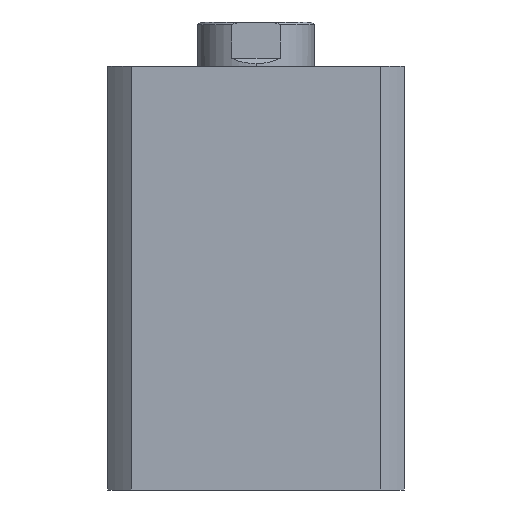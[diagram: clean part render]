
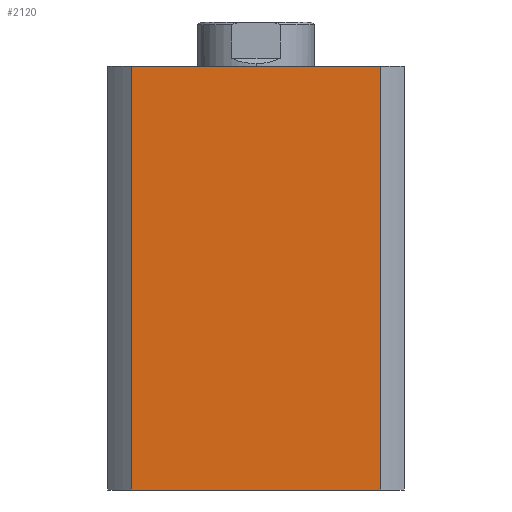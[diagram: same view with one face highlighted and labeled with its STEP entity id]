
A CAD part, left-side view. The second image highlights one B-rep face of the part: STEP entity #2120.
In plain terms, the highlighted planar face has unit normal (-1, 0, 0).
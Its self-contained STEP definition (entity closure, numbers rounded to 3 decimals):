
#161 = ORIENTED_EDGE ( 'NONE', *, *, #1054, .T. ) ;
#162 = ORIENTED_EDGE ( 'NONE', *, *, #3373, .F. ) ;
#163 = ORIENTED_EDGE ( 'NONE', *, *, #3355, .F. ) ;
#164 = ORIENTED_EDGE ( 'NONE', *, *, #3377, .T. ) ;
#524 = FACE_OUTER_BOUND ( 'NONE', #1907, .T. ) ;
#801 = LINE ( 'NONE', #3835, #805 ) ;
#805 = VECTOR ( 'NONE', #3836, 1000. ) ;
#1054 = EDGE_CURVE ( 'NONE', #1353, #1318, #801, .T. ) ;
#1297 = VERTEX_POINT ( 'NONE', #3305 ) ;
#1318 = VERTEX_POINT ( 'NONE', #3230 ) ;
#1353 = VERTEX_POINT ( 'NONE', #3066 ) ;
#1373 = VERTEX_POINT ( 'NONE', #3007 ) ;
#1907 = EDGE_LOOP ( 'NONE', ( #161, #162, #163, #164 ) ) ;
#2120 = ADVANCED_FACE ( 'NONE', ( #524 ), #4619, .F. ) ;
#2639 = AXIS2_PLACEMENT_3D ( 'NONE', #4625, #4616, #4615 ) ;
#3007 = CARTESIAN_POINT ( 'NONE',  ( -57., -47.971, 163. ) ) ;
#3066 = CARTESIAN_POINT ( 'NONE',  ( -57., 47.971, 0. ) ) ;
#3230 = CARTESIAN_POINT ( 'NONE',  ( -57., -47.971, 0. ) ) ;
#3305 = CARTESIAN_POINT ( 'NONE',  ( -57., 47.971, 163. ) ) ;
#3355 = EDGE_CURVE ( 'NONE', #1297, #1373, #3478, .T. ) ;
#3373 = EDGE_CURVE ( 'NONE', #1373, #1318, #3492, .T. ) ;
#3377 = EDGE_CURVE ( 'NONE', #1297, #1353, #3473, .T. ) ;
#3473 = LINE ( 'NONE', #4180, #3499 ) ;
#3478 = LINE ( 'NONE', #4220, #3480 ) ;
#3480 = VECTOR ( 'NONE', #4218, 1000. ) ;
#3492 = LINE ( 'NONE', #4172, #3495 ) ;
#3495 = VECTOR ( 'NONE', #4171, 1000. ) ;
#3499 = VECTOR ( 'NONE', #4167, 1000. ) ;
#3835 = CARTESIAN_POINT ( 'NONE',  ( -57., 0., 0. ) ) ;
#3836 = DIRECTION ( 'NONE',  ( 0., -1., 0. ) ) ;
#4167 = DIRECTION ( 'NONE',  ( 0., 0., -1. ) ) ;
#4171 = DIRECTION ( 'NONE',  ( 0., 0., -1. ) ) ;
#4172 = CARTESIAN_POINT ( 'NONE',  ( -57., -47.971, 163. ) ) ;
#4180 = CARTESIAN_POINT ( 'NONE',  ( -57., 47.971, 163. ) ) ;
#4218 = DIRECTION ( 'NONE',  ( 0., -1., 0. ) ) ;
#4220 = CARTESIAN_POINT ( 'NONE',  ( -57., 0., 163. ) ) ;
#4615 = DIRECTION ( 'NONE',  ( 0., 0., -1. ) ) ;
#4616 = DIRECTION ( 'NONE',  ( 1., 0., 0. ) ) ;
#4619 = PLANE ( 'NONE',  #2639 ) ;
#4625 = CARTESIAN_POINT ( 'NONE',  ( -57., 0., 163. ) ) ;
